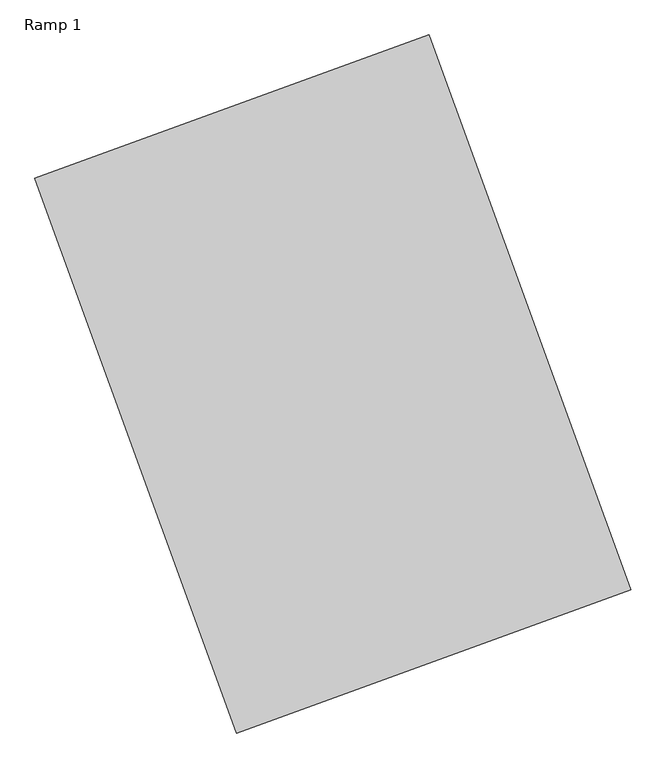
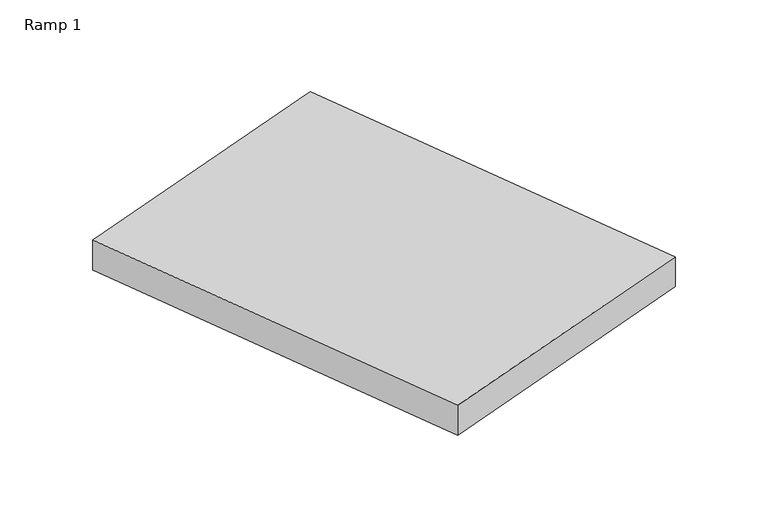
"""IFC4 building model written with IfcOpenShell, lengths in millimetres: ramp geometry, Ramp 1."""

from ifc_helpers import new_model, si_unit, frame, origin, place, context, project, spatial, polyline, outline, extrude, source, transform, mapped, element, save


def ramp_1_f57f52c1(model_context):
    return source(origin(), model_context, "Body", "SweptSolid", [
        extrude(outline(polyline([(-50.0, -1968.503937), (0.0, 0.0), (150.0483792, 0.0), (100.0483792, -1968.503937), (-50.0, -1968.503937)])), frame((12817.0656342, 24286.4889131, 2400.0), z_axis=(0.9396923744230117, 0.34202082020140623, 0.0), x_axis=(0.0, 0.0, -1.0)), (0.0, 0.0, 1.0), 1400.0),
    ])


if __name__ == "__main__":
    model = new_model("IFC4")
    model_context = context("Model", 3, world=origin())
    ifc_project = project(units=[si_unit("LENGTHUNIT", "METRE", prefix="MILLI")], contexts=[model_context])
    site = spatial("IfcSite", under=ifc_project)
    building = spatial("IfcBuilding", under=site)
    placement = place(None, origin())
    ramp_1_shape = ramp_1_f57f52c1(model_context)
    element("IfcRamp", 1, ObjectType="Ramp 1", at=placement, inside=building, context=model_context, shape_type="MappedRepresentation", body=[
        mapped(ramp_1_shape, transform((0.0, 0.0, 0.0), x_axis=(1.0, 0.0, 0.0), y_axis=(0.0, 1.0, 0.0), z_axis=(0.0, 0.0, 1.0))),
    ])
    save(model, "model.ifc")
